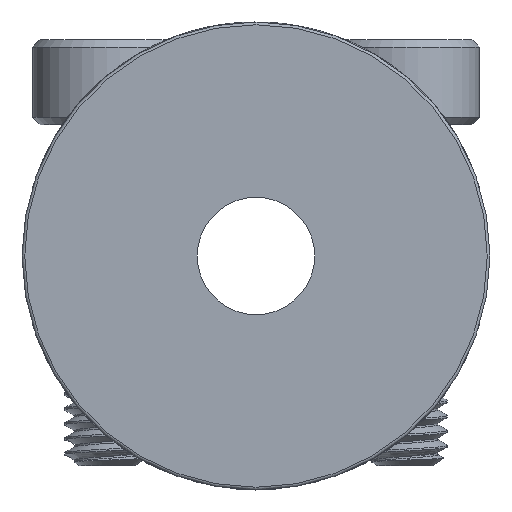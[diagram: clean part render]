
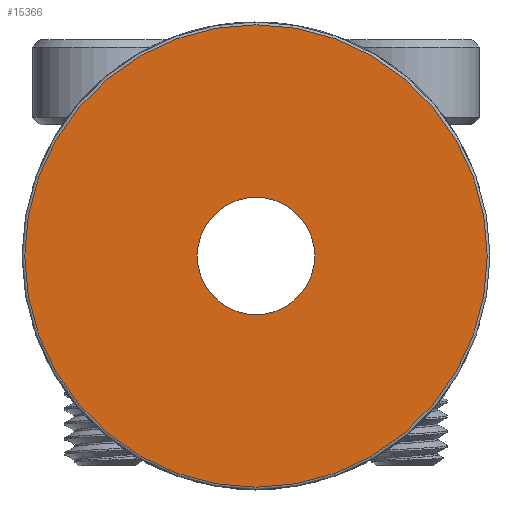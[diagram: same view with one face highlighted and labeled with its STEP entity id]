
A CAD part, front view. The second image highlights one B-rep face of the part: STEP entity #15366.
In plain terms, the highlighted planar face has unit normal (0, -1, 0).
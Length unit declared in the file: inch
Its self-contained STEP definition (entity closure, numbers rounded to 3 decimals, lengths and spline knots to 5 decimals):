
#144=FACE_BOUND('',#2462,.T.);
#804=PLANE('',#16565);
#1551=FACE_OUTER_BOUND('',#2461,.T.);
#2461=EDGE_LOOP('',(#13791));
#2462=EDGE_LOOP('',(#13792));
#3568=CIRCLE('',#16562,0.42715);
#3570=CIRCLE('',#16566,0.1085);
#7382=VERTEX_POINT('',#29378);
#7383=VERTEX_POINT('',#29383);
#9554=EDGE_CURVE('',#7382,#7382,#3568,.T.);
#9556=EDGE_CURVE('',#7383,#7383,#3570,.T.);
#13791=ORIENTED_EDGE('',*,*,#9554,.F.);
#13792=ORIENTED_EDGE('',*,*,#9556,.T.);
#15366=ADVANCED_FACE('',(#1551,#144),#804,.T.);
#16562=AXIS2_PLACEMENT_3D('',#29379,#19891,#19892);
#16565=AXIS2_PLACEMENT_3D('',#29382,#19897,#19898);
#16566=AXIS2_PLACEMENT_3D('',#29384,#19899,#19900);
#19891=DIRECTION('center_axis',(0.,1.,0.));
#19892=DIRECTION('ref_axis',(-1.,0.,0.));
#19897=DIRECTION('center_axis',(0.,-1.,0.));
#19898=DIRECTION('ref_axis',(0.,0.,-1.));
#19899=DIRECTION('center_axis',(0.,1.,0.));
#19900=DIRECTION('ref_axis',(1.,0.,0.));
#29378=CARTESIAN_POINT('',(0.,-0.547,0.42715));
#29379=CARTESIAN_POINT('Origin',(0.,-0.547,0.));
#29382=CARTESIAN_POINT('Origin',(0.,-0.547,0.));
#29383=CARTESIAN_POINT('',(-0.1085,-0.547,0.));
#29384=CARTESIAN_POINT('Origin',(0.,-0.547,0.));
